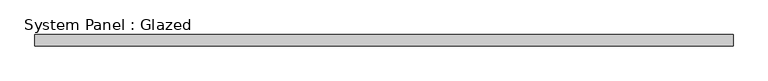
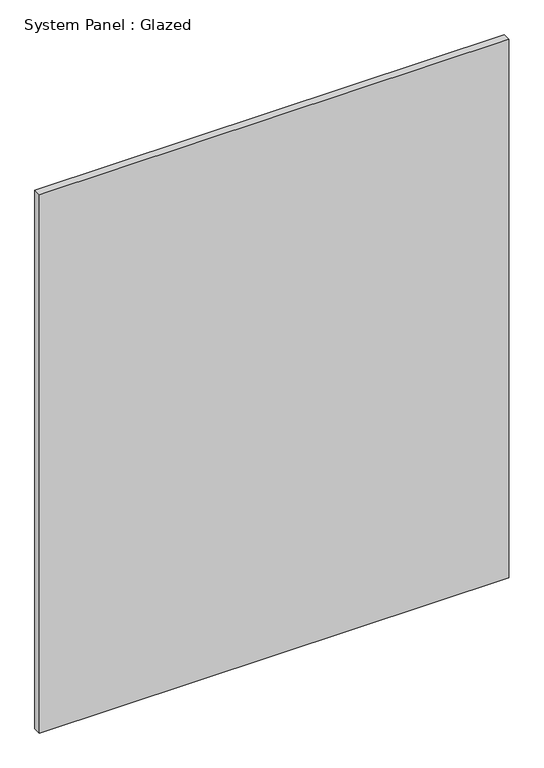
"""IFC4 building model written with IfcOpenShell, lengths in millimetres: plate geometry, System Panel : Glazed."""

from ifc_helpers import new_model, si_unit, origin, origin_with_axes, place, context, project, spatial, polyline, outline, extrude, source, transform, mapped, element, save


def system_panel_glazed_436c25eb(model_context):
    return source(origin(), model_context, "Body", "SweptSolid", [
        extrude(outline(polyline([(790.575, 19.05), (-790.575, 19.05), (-790.575, 44.45), (790.575, 44.45), (790.575, 19.05)])), origin_with_axes(), (0.0, 0.0, 1.0), 1917.7),
    ])


if __name__ == "__main__":
    model = new_model("IFC4")
    model_context = context("Model", 3, world=origin())
    ifc_project = project(units=[si_unit("LENGTHUNIT", "METRE", prefix="MILLI")], contexts=[model_context])
    site = spatial("IfcSite", under=ifc_project)
    building = spatial("IfcBuilding", under=site)
    placement = place(None, origin())
    system_panel_glazed_shape = system_panel_glazed_436c25eb(model_context)
    element("IfcPlate", 1, ObjectType="System Panel : Glazed", at=placement, inside=building, context=model_context, shape_type="MappedRepresentation", body=[
        mapped(system_panel_glazed_shape, transform((0.0, 0.0, 0.0), x_axis=(1.0, 0.0, 0.0), y_axis=(0.0, 1.0, 0.0), z_axis=(0.0, 0.0, 1.0))),
    ])
    save(model, "model.ifc")
